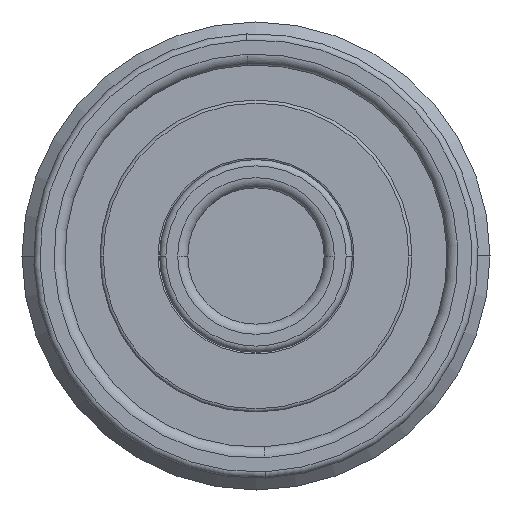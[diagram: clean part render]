
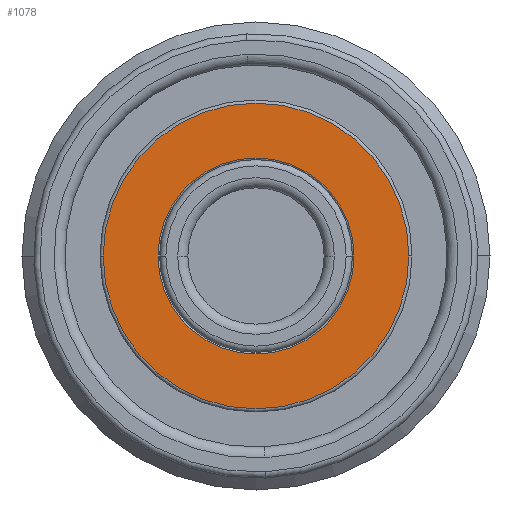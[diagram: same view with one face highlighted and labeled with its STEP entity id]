
A CAD part, front view. The second image highlights one B-rep face of the part: STEP entity #1078.
In plain terms, the highlighted planar face has unit normal (0, -1, 0).
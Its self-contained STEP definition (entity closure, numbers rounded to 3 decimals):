
#751=PLANE('',#2997);
#791=FACE_BOUND('',#1407,.T.);
#792=FACE_BOUND('',#1408,.T.);
#1078=ADVANCED_FACE('',(#791,#792),#751,.F.);
#1407=EDGE_LOOP('',(#1773,#1774));
#1408=EDGE_LOOP('',(#1775,#1776));
#1773=ORIENTED_EDGE('',*,*,#2509,.T.);
#1774=ORIENTED_EDGE('',*,*,#2384,.T.);
#1775=ORIENTED_EDGE('',*,*,#2394,.T.);
#1776=ORIENTED_EDGE('',*,*,#2510,.T.);
#2171=VERTEX_POINT('',#4047);
#2172=VERTEX_POINT('',#4048);
#2181=VERTEX_POINT('',#4068);
#2182=VERTEX_POINT('',#4070);
#2384=EDGE_CURVE('',#2171,#2172,#2692,.T.);
#2394=EDGE_CURVE('',#2182,#2181,#2702,.T.);
#2509=EDGE_CURVE('',#2172,#2171,#2749,.T.);
#2510=EDGE_CURVE('',#2181,#2182,#2750,.T.);
#2692=CIRCLE('',#2906,9.8);
#2702=CIRCLE('',#2918,6.28);
#2749=CIRCLE('',#2995,9.8);
#2750=CIRCLE('',#2996,6.28);
#2906=AXIS2_PLACEMENT_3D('',#4046,#3330,#3331);
#2918=AXIS2_PLACEMENT_3D('',#4069,#3354,#3355);
#2995=AXIS2_PLACEMENT_3D('',#4521,#3548,#3549);
#2996=AXIS2_PLACEMENT_3D('',#4522,#3550,#3551);
#2997=AXIS2_PLACEMENT_3D('',#4523,#3552,#3553);
#3330=DIRECTION('',(0.,-1.,0.));
#3331=DIRECTION('',(-1.,0.,0.));
#3354=DIRECTION('',(0.,1.,0.));
#3355=DIRECTION('',(-1.,0.,0.));
#3548=DIRECTION('',(0.,-1.,0.));
#3549=DIRECTION('',(-1.,0.,0.));
#3550=DIRECTION('',(0.,1.,0.));
#3551=DIRECTION('',(-1.,0.,0.));
#3552=DIRECTION('',(0.,1.,0.));
#3553=DIRECTION('',(1.,0.,0.));
#4046=CARTESIAN_POINT('',(0.,0.,0.));
#4047=CARTESIAN_POINT('',(9.8,0.,0.));
#4048=CARTESIAN_POINT('',(-9.8,0.,0.));
#4068=CARTESIAN_POINT('',(6.28,0.,0.));
#4069=CARTESIAN_POINT('',(0.,0.,0.));
#4070=CARTESIAN_POINT('',(-6.28,0.,0.));
#4521=CARTESIAN_POINT('',(0.,0.,0.));
#4522=CARTESIAN_POINT('',(0.,0.,0.));
#4523=CARTESIAN_POINT('',(0.,0.,0.));
